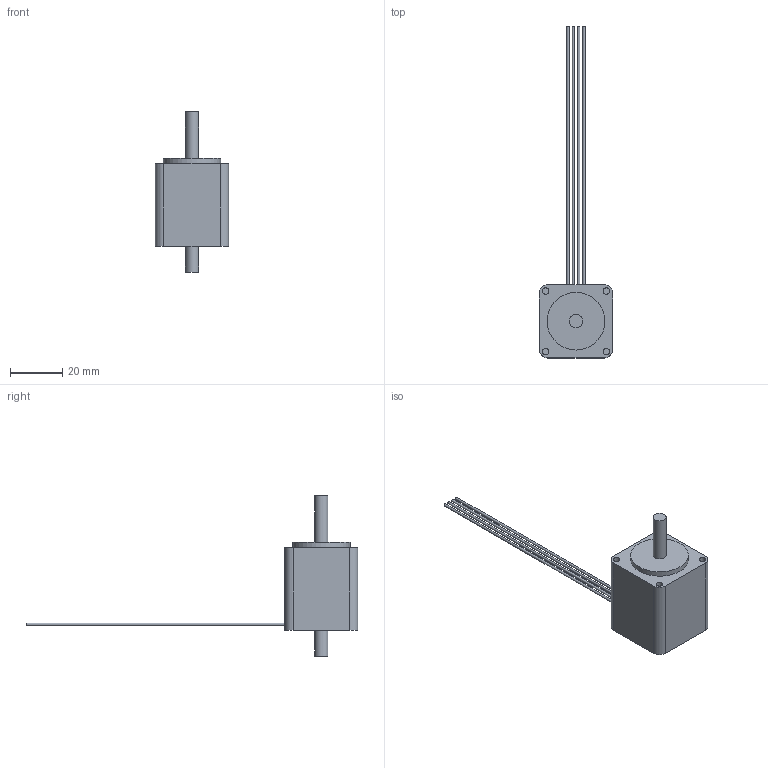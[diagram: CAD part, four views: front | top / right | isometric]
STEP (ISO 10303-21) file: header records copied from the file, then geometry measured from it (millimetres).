
FILE_DESCRIPTION((''),'2;1');
FILE_NAME('C:\Documents and Settings\rbadgerow\Desktop\updated web dwgs\ipt\211\211-13 dbl.stp','2008-10-26T10:19:44',('rbadgerow'),(''),'Autodesk Inventor 2009','Autodesk Inventor 2009','');
FILE_SCHEMA(('AUTOMOTIVE_DESIGN { 1 0 10303 214 1 1 1 1 }'));
Length unit declared in the file: inch
Products named in the file (1): 211-13 dbl
Bounding box: 27.94 x 126.66 x 61.21 mm (x, y, z)
Volume: 25311.6 mm3; surface area: 7624.8 mm2
Topology: 1 solids, 1 shells, 32 faces, 60 edges, 41 vertices
Faces by surface type: plane 17, cylinder 15
Full cylindrical faces by diameter (mm): 0.965 x4, 2.489 x4, 4.999 x2, 21.996 x1
Entity records: 850 total; most frequent: DIRECTION 142, CARTESIAN_POINT 117, ORIENTED_EDGE 92, AXIS2_PLACEMENT_3D 63, EDGE_LOOP 54, EDGE_CURVE 46, VERTEX_POINT 38, FACE_OUTER_BOUND 32
